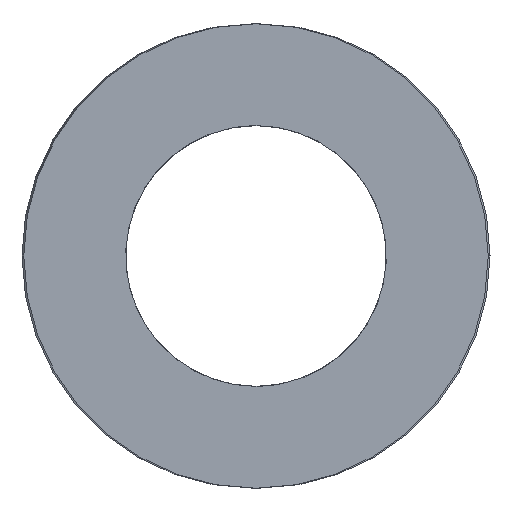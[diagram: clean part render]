
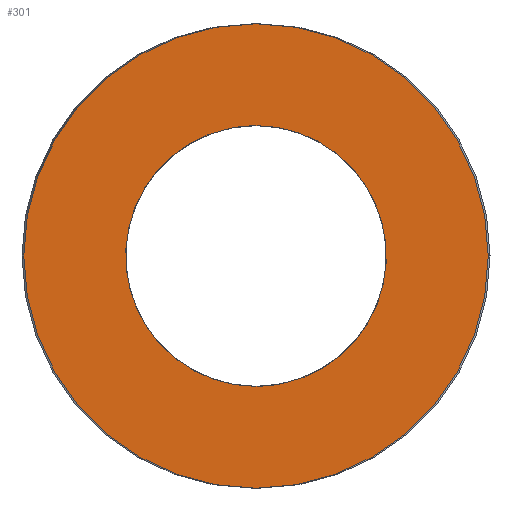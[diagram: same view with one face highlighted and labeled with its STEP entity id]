
A CAD part, left-side view. The second image highlights one B-rep face of the part: STEP entity #301.
In plain terms, the highlighted planar face has unit normal (-1, 0, 0).
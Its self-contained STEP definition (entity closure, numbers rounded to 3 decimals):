
#63=CARTESIAN_POINT('Vertex',(0.,15.5,0.)) ;
#77=CARTESIAN_POINT('Vertex',(0.,-15.5,0.)) ;
#80=CARTESIAN_POINT('Axis2P3D Location',(0.,0.,0.)) ;
#97=CARTESIAN_POINT('Axis2P3D Location',(0.,0.,0.)) ;
#232=CARTESIAN_POINT('Axis2P3D Location',(0.,7.75,0.)) ;
#242=CARTESIAN_POINT('Control Point',(0.,0.,-8.7)) ;
#243=CARTESIAN_POINT('Control Point',(0.,0.867,-8.7)) ;
#244=CARTESIAN_POINT('Control Point',(0.,1.734,-8.592)) ;
#245=CARTESIAN_POINT('Control Point',(0.,2.583,-8.376)) ;
#246=CARTESIAN_POINT('Control Point',(0.,4.209,-7.737)) ;
#247=CARTESIAN_POINT('Control Point',(0.,5.629,-6.719)) ;
#248=CARTESIAN_POINT('Control Point',(0.,6.272,-6.123)) ;
#249=CARTESIAN_POINT('Control Point',(0.,7.395,-4.785)) ;
#250=CARTESIAN_POINT('Control Point',(0.,8.156,-3.211)) ;
#251=CARTESIAN_POINT('Control Point',(0.,8.436,-2.381)) ;
#252=CARTESIAN_POINT('Control Point',(0.,8.783,-0.669)) ;
#253=CARTESIAN_POINT('Control Point',(0.,8.699,1.077)) ;
#254=CARTESIAN_POINT('Control Point',(0.,8.548,1.94)) ;
#255=CARTESIAN_POINT('Control Point',(0.,8.034,3.61)) ;
#256=CARTESIAN_POINT('Control Point',(0.,7.127,5.103)) ;
#257=CARTESIAN_POINT('Control Point',(0.,6.581,5.789)) ;
#258=CARTESIAN_POINT('Control Point',(0.,5.332,7.011)) ;
#259=CARTESIAN_POINT('Control Point',(0.,3.821,7.888)) ;
#260=CARTESIAN_POINT('Control Point',(0.,3.015,8.231)) ;
#261=CARTESIAN_POINT('Control Point',(0.,1.918,8.541)) ;
#262=CARTESIAN_POINT('Control Point',(0.,0.793,8.67)) ;
#263=CARTESIAN_POINT('Control Point',(0.,0.529,8.69)) ;
#264=CARTESIAN_POINT('Control Point',(0.,0.264,8.7)) ;
#265=CARTESIAN_POINT('Control Point',(0.,0.,8.7)) ;
#266=CARTESIAN_POINT('Vertex',(0.,0.,-8.7)) ;
#268=CARTESIAN_POINT('Vertex',(0.,0.,8.7)) ;
#272=CARTESIAN_POINT('Control Point',(0.,0.,8.7)) ;
#273=CARTESIAN_POINT('Control Point',(0.,-0.867,8.7)) ;
#274=CARTESIAN_POINT('Control Point',(0.,-1.734,8.592)) ;
#275=CARTESIAN_POINT('Control Point',(0.,-2.583,8.376)) ;
#276=CARTESIAN_POINT('Control Point',(0.,-4.209,7.737)) ;
#277=CARTESIAN_POINT('Control Point',(0.,-5.629,6.719)) ;
#278=CARTESIAN_POINT('Control Point',(0.,-6.272,6.123)) ;
#279=CARTESIAN_POINT('Control Point',(0.,-7.395,4.785)) ;
#280=CARTESIAN_POINT('Control Point',(0.,-8.156,3.211)) ;
#281=CARTESIAN_POINT('Control Point',(0.,-8.436,2.381)) ;
#282=CARTESIAN_POINT('Control Point',(0.,-8.783,0.669)) ;
#283=CARTESIAN_POINT('Control Point',(0.,-8.699,-1.077)) ;
#284=CARTESIAN_POINT('Control Point',(0.,-8.548,-1.94)) ;
#285=CARTESIAN_POINT('Control Point',(0.,-8.034,-3.61)) ;
#286=CARTESIAN_POINT('Control Point',(0.,-7.127,-5.103)) ;
#287=CARTESIAN_POINT('Control Point',(0.,-6.581,-5.789)) ;
#288=CARTESIAN_POINT('Control Point',(0.,-5.332,-7.011)) ;
#289=CARTESIAN_POINT('Control Point',(0.,-3.821,-7.888)) ;
#290=CARTESIAN_POINT('Control Point',(0.,-3.015,-8.231)) ;
#291=CARTESIAN_POINT('Control Point',(0.,-1.918,-8.541)) ;
#292=CARTESIAN_POINT('Control Point',(0.,-0.793,-8.67)) ;
#293=CARTESIAN_POINT('Control Point',(0.,-0.529,-8.69)) ;
#294=CARTESIAN_POINT('Control Point',(0.,-0.264,-8.7)) ;
#295=CARTESIAN_POINT('Control Point',(0.,0.,-8.7)) ;
#81=DIRECTION('Axis2P3D Direction',(1.,-0.,0.)) ;
#98=DIRECTION('Axis2P3D Direction',(1.,-0.,0.)) ;
#233=DIRECTION('Axis2P3D Direction',(-1.,0.,0.)) ;
#234=DIRECTION('Axis2P3D XDirection',(0.,1.,0.)) ;
#82=AXIS2_PLACEMENT_3D('Circle Axis2P3D',#80,#81,$) ;
#99=AXIS2_PLACEMENT_3D('Circle Axis2P3D',#97,#98,$) ;
#235=AXIS2_PLACEMENT_3D('Plane Axis2P3D',#232,#233,#234) ;
#238=ORIENTED_EDGE('',*,*,#84,.T.) ;
#239=ORIENTED_EDGE('',*,*,#101,.T.) ;
#298=ORIENTED_EDGE('',*,*,#270,.T.) ;
#299=ORIENTED_EDGE('',*,*,#296,.T.) ;
#300=FACE_BOUND('',#297,.T.) ;
#301=ADVANCED_FACE('392-B32-127',(#240,#300),#236,.T.) ;
#241=B_SPLINE_CURVE_WITH_KNOTS('',5,(#242,#243,#244,#245,#246,#247,#248,#249,#250,#251,#252,#253,#254,#255,#256,#257,#258,#259,#260,#261,#262,#263,#264,#265),.UNSPECIFIED.,.F.,.U.,(6,3,3,3,3,3,3,6),(0.,6.131,12.261,18.392,24.522,30.653,36.783,38.652),.UNSPECIFIED.) ;
#271=B_SPLINE_CURVE_WITH_KNOTS('',5,(#272,#273,#274,#275,#276,#277,#278,#279,#280,#281,#282,#283,#284,#285,#286,#287,#288,#289,#290,#291,#292,#293,#294,#295),.UNSPECIFIED.,.F.,.U.,(6,3,3,3,3,3,3,6),(0.,6.131,12.261,18.392,24.522,30.653,36.783,38.652),.UNSPECIFIED.) ;
#83=CIRCLE('generated circle',#82,15.5) ;
#100=CIRCLE('generated circle',#99,15.5) ;
#84=EDGE_CURVE('',#64,#78,#83,.F.) ;
#101=EDGE_CURVE('',#78,#64,#100,.F.) ;
#270=EDGE_CURVE('',#267,#269,#241,.T.) ;
#296=EDGE_CURVE('',#269,#267,#271,.T.) ;
#237=EDGE_LOOP('',(#238,#239)) ;
#297=EDGE_LOOP('',(#298,#299)) ;
#240=FACE_OUTER_BOUND('',#237,.T.) ;
#236=PLANE('Plane',#235) ;
#64=VERTEX_POINT('',#63) ;
#78=VERTEX_POINT('',#77) ;
#267=VERTEX_POINT('',#266) ;
#269=VERTEX_POINT('',#268) ;
